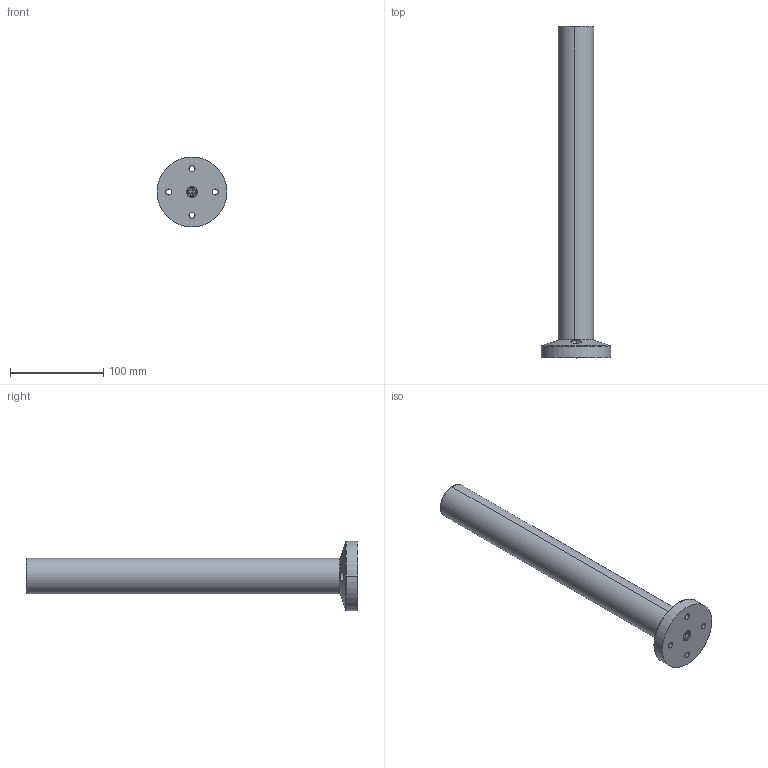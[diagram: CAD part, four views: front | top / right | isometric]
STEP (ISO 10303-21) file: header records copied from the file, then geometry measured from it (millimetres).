
FILE_DESCRIPTION (( 'STEP AP203' ), '1' );
FILE_NAME ('7MPR1356盓傅堵.STEP', '2019-12-09T05:38:47', ( '' ), ( '' ), 'SwSTEP 2.0', 'SolidWorks 2018', '' );
FILE_SCHEMA (( 'CONFIG_CONTROL_DESIGN' ));
Length unit declared in the file: millimetre
Products named in the file (1): 7MPR1356盓傅堵
Bounding box: 75 x 356 x 75 mm (x, y, z)
Volume: 187568.8 mm3; surface area: 95697.8 mm2
Topology: 6 solids, 6 shells, 137 faces, 302 edges, 186 vertices
Faces by surface type: cylinder 64, plane 39, cone 28, torus 6
Entity records: 4199 total; most frequent: CARTESIAN_POINT 948, DIRECTION 732, ORIENTED_EDGE 596, AXIS2_PLACEMENT_3D 304, EDGE_CURVE 298, VERTEX_POINT 186, EDGE_LOOP 174, CIRCLE 166
